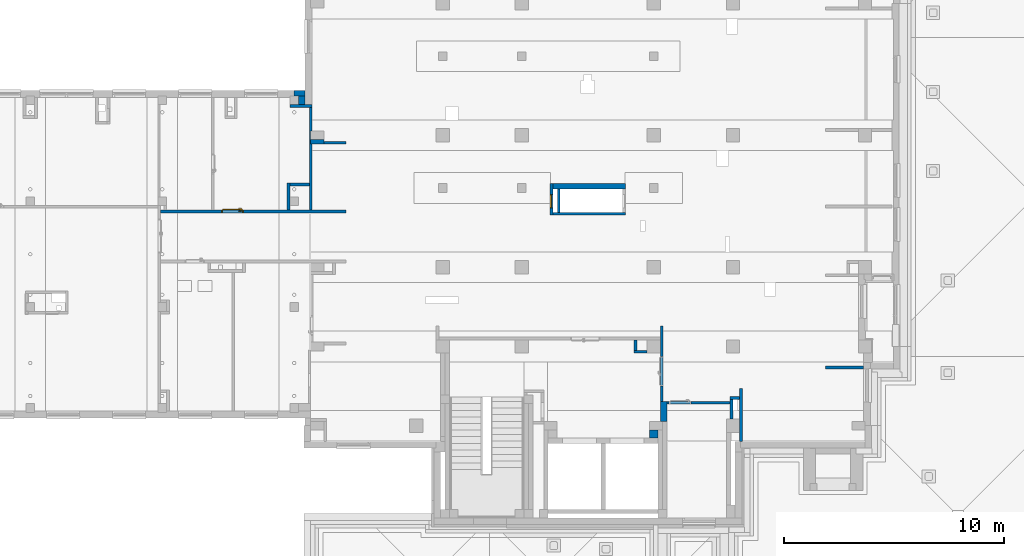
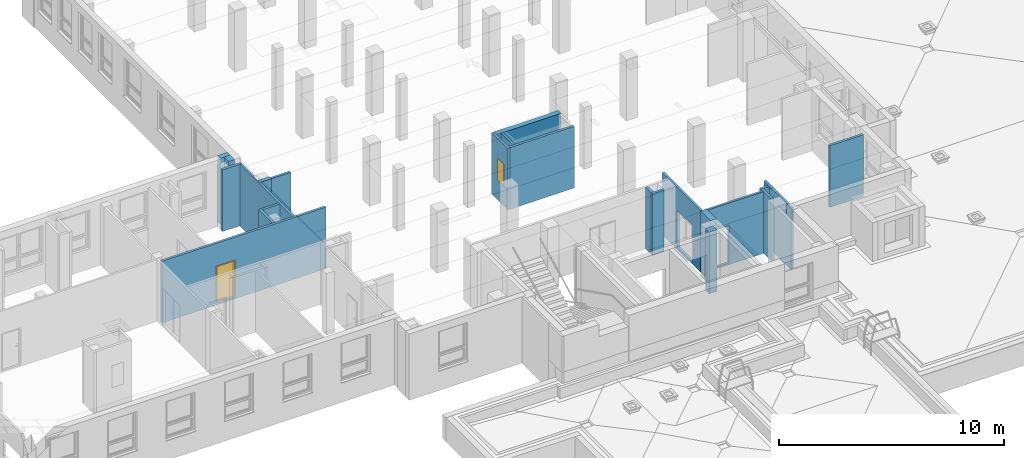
# One storey, part 23 of 50: 23 walls, 1 door, 1 window, 4 openings.
"""IFC4 building model written with IfcOpenShell, lengths in metres."""

from ifc_helpers import new_model, entity, si_unit, converted_unit, derived_unit, frame, frame_2d, origin, origin_with_axes, place, context, subcontext, project, spatial, polyline, rectangle, outline, extrude, closed_shell, open_shell, faceted_brep, surface_model, source, transform, mapped, material, layer, layer_set, layer_usage, type_object, element, fill, save


model = new_model("IFC4")

# Units and contexts
model_context = context("Model", 3, precision=1e-05, world=origin())
body_context = subcontext(model_context, "Body", "Model", "MODEL_VIEW")
ifc_project = project(units=[si_unit("LENGTHUNIT", "METRE"), si_unit("AREAUNIT", "SQUARE_METRE"), si_unit("VOLUMEUNIT", "CUBIC_METRE"), si_unit("MASSUNIT", "GRAM", prefix="KILO"), converted_unit("PLANEANGLEUNIT", "DEGREE", entity("IfcPlaneAngleMeasure", 0.0174532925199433), si_unit("PLANEANGLEUNIT", "RADIAN"), dimensions=[0, 0, 0, 0, 0, 0, 0]), derived_unit("THERMALTRANSMITTANCEUNIT", [(si_unit("POWERUNIT", "WATT"), 1), (si_unit("THERMODYNAMICTEMPERATUREUNIT", "KELVIN"), -1), (si_unit("LENGTHUNIT", "METRE"), -2)]), derived_unit("VOLUMETRICFLOWRATEUNIT", [(si_unit("LENGTHUNIT", "METRE"), 3), (converted_unit("TIMEUNIT", "hour", entity("IfcTimeMeasure", 3600.0), si_unit("TIMEUNIT", "SECOND"), dimensions=[0, 0, 1, 0, 0, 0, 0]), -1), (si_unit("LENGTHUNIT", "METRE"), -1)])], contexts=[model_context])

# Site, building, storey
site_placement = place(None, origin())
site = spatial("IfcSite", under=ifc_project, at=site_placement, Name="3. ASŘ", CompositionType="ELEMENT")
building_placement = place(site_placement, origin())
building = spatial("IfcBuilding", under=site, at=building_placement, Name="Pavilon C", CompositionType="ELEMENT")
storey_placement = place(building_placement, frame((0.0, 0.0, 3.6)))
storey = spatial("IfcBuildingStorey", under=building, at=storey_placement, Name="Půdorys 2.NP", CompositionType="ELEMENT", Elevation=3.6)

# Walls
ifc_material_1 = material(Name="ZDIVO Z CDm")
ifc_layer_1 = layer(ifc_material_1, 0.35)
ifc_layer_set_1 = layer_set([ifc_layer_1])
ifc_layer_usage_1 = layer_usage(ifc_layer_set_1, "AXIS2", "POSITIVE", 0.0)
wall_1_placement = place(storey_placement, frame((40.55, -0.200000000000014, -0.1), z_axis=(0.0, 0.0, 1.0), x_axis=(-1.0, 0.0, 0.0)))
element("IfcWall", 1, at=wall_1_placement, inside=storey, material=ifc_layer_usage_1, Name="ZDIVO Z CDm", context=body_context, shape_type="SweptSolid", body=[
    extrude(rectangle(XDim=0.4, YDim=0.35, at=frame_2d((0.2, 0.175), x_axis=(1.0, 0.0))), origin_with_axes(), (0.0, 0.0, 1.0), 3.35),
])
ifc_material_2 = material(Name="ZDIVO Z CDm")
ifc_layer_2 = layer(ifc_material_2, 0.125)
ifc_layer_set_2 = layer_set([ifc_layer_2])
ifc_layer_usage_2 = layer_usage(ifc_layer_set_2, "AXIS2", "POSITIVE", 0.0)
wall_2_placement = place(storey_placement, frame((39.45, 3.29999999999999, -0.1)))
element("IfcWall", 2, at=wall_2_placement, inside=storey, material=ifc_layer_usage_2, Name="ZDIVO Z CDm", context=body_context, shape_type="SweptSolid", body=[
    extrude(rectangle(XDim=0.6, YDim=0.125, at=frame_2d((0.3, 0.0625000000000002), x_axis=(1.0, 0.0))), origin_with_axes(), (0.0, 0.0, 1.0), 3.35),
])
ifc_material_3 = material(Name="ZDIVO Z CDm")
ifc_layer_3 = layer(ifc_material_3, 0.125)
ifc_layer_set_3 = layer_set([ifc_layer_3])
ifc_layer_usage_3 = layer_usage(ifc_layer_set_3, "AXIS2", "POSITIVE", 0.0)
wall_3_placement = place(storey_placement, frame((39.45, 3.89999999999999, -0.1), z_axis=(0.0, 0.0, 1.0), x_axis=(0.0, -1.0, 0.0)))
element("IfcWall", 3, at=wall_3_placement, inside=storey, material=ifc_layer_usage_3, Name="ZDIVO Z CDm", context=body_context, shape_type="SweptSolid", body=[
    extrude(rectangle(XDim=0.475, YDim=0.125, at=frame_2d((0.2375, 0.0625), x_axis=(1.0, 0.0))), origin_with_axes(), (0.0, 0.0, 1.0), 3.35),
])

# Wall, opening
ifc_material_4 = material(Name="ZDIVO Z CDm")
ifc_layer_4 = layer(ifc_material_4, 0.125)
ifc_layer_set_4 = layer_set([ifc_layer_4])
ifc_layer_usage_4 = layer_usage(ifc_layer_set_4, "AXIS2", "POSITIVE", 0.0)
wall_4_placement = place(storey_placement, frame((40.65, 4.525, -0.1), z_axis=(0.0, 0.0, 1.0), x_axis=(0.0, -1.0, 0.0)))
wall_4 = element("IfcWall", 4, at=wall_4_placement, inside=storey, material=ifc_layer_usage_4, Name="ZDIVO Z CDm", context=body_context, shape_type="SweptSolid", body=[
    extrude(rectangle(XDim=3.42500000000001, YDim=0.125, at=frame_2d((1.7125, 0.0625), x_axis=(1.0, 0.0))), origin_with_axes(), (0.0, 0.0, 1.0), 3.35),
])
opening_1_placement = place(wall_4_placement, frame((1.37500000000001, 0.0, 0.1), z_axis=(0.0, 1.0, 0.0), x_axis=(0.0, 0.0, 1.0)))
element("IfcOpeningElement", 5, at=opening_1_placement, cuts=wall_4, Name="Dveřní otvor", ObjectType="Opening", context=body_context, shape_type="SweptSolid", body=[
    extrude(outline(polyline([(0.0, 1.35), (2.02, 1.35), (2.02, 0.0), (0.0, 0.0), (0.0, 1.35)])), origin_with_axes(), (0.0, 0.0, 1.0), 0.125),
])

# Walls
ifc_material_5 = material(Name="ZDIVO Z CDm")
ifc_layer_5 = layer(ifc_material_5, 0.125)
ifc_layer_set_5 = layer_set([ifc_layer_5])
ifc_layer_usage_5 = layer_usage(ifc_layer_set_5, "AXIS2", "POSITIVE", 0.0)
wall_5_placement = place(storey_placement, frame((43.825, 1.19999999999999, -0.1)))
element("IfcWall", 6, at=wall_5_placement, inside=storey, material=ifc_layer_usage_5, Name="ZDIVO Z CDm", context=body_context, shape_type="SweptSolid", body=[
    extrude(rectangle(XDim=0.425, YDim=0.125, at=frame_2d((0.2125, 0.0625), x_axis=(1.0, 0.0))), origin_with_axes(), (0.0, 0.0, 1.0), 3.35),
])
ifc_material_6 = material(Name="ZDIVO Z CDm")
ifc_layer_6 = layer(ifc_material_6, 0.125)
ifc_layer_set_6 = layer_set([ifc_layer_6])
ifc_layer_usage_6 = layer_usage(ifc_layer_set_6, "AXIS2", "POSITIVE", 0.0)
wall_6_placement = place(storey_placement, frame((43.95, 0.29999999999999, -0.1), z_axis=(0.0, 0.0, 1.0), x_axis=(0.0, 1.0, 0.0)))
element("IfcWall", 7, at=wall_6_placement, inside=storey, material=ifc_layer_usage_6, Name="ZDIVO Z CDm", context=body_context, shape_type="SweptSolid", body=[
    extrude(rectangle(XDim=0.900000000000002, YDim=0.125, at=frame_2d((0.450000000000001, 0.0625), x_axis=(1.0, 0.0))), origin_with_axes(), (0.0, 0.0, 1.0), 3.35),
])

# Wall, opening
ifc_material_7 = material(Name="ZDIVO Z CDm")
ifc_layer_7 = layer(ifc_material_7, 0.125)
ifc_layer_set_7 = layer_set([ifc_layer_7])
ifc_layer_usage_7 = layer_usage(ifc_layer_set_7, "AXIS2", "POSITIVE", 0.0)
wall_7_placement = place(storey_placement, frame((40.95, 0.97499999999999, -0.1), z_axis=(0.0, 0.0, 1.0), x_axis=(1.0, -1.18629743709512e-16, 0.0)))
wall_7 = element("IfcWall", 8, at=wall_7_placement, inside=storey, material=ifc_layer_usage_7, Name="ZDIVO Z CDm", context=body_context, shape_type="SweptSolid", body=[
    extrude(rectangle(XDim=2.875, YDim=0.125, at=frame_2d((1.4375, 0.0625), x_axis=(1.0, 0.0))), origin_with_axes(), (0.0, 0.0, 1.0), 3.35),
])
opening_2_placement = place(wall_7_placement, frame((1.1, 0.125, 0.1), z_axis=(0.0, -1.0, 0.0), x_axis=(0.0, 0.0, 1.0)))
element("IfcOpeningElement", 9, at=opening_2_placement, cuts=wall_7, Name="Dveřní otvor", ObjectType="Opening", context=body_context, shape_type="SweptSolid", body=[
    extrude(outline(polyline([(0.0, 1.0), (2.02, 1.0), (2.02, 0.0), (0.0, 0.0), (0.0, 1.0)])), origin_with_axes(), (0.0, 0.0, 1.0), 0.125),
])

# Walls
ifc_material_8 = material(Name="ZDIVO Z CDm")
ifc_layer_8 = layer(ifc_material_8, 0.3)
ifc_layer_set_8 = layer_set([ifc_layer_8])
ifc_layer_usage_8 = layer_usage(ifc_layer_set_8, "AXIS2", "POSITIVE", 0.0)
wall_8_placement = place(storey_placement, frame((40.95, 0.199999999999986, -0.1), z_axis=(0.0, 0.0, 1.0), x_axis=(0.0, 1.0, 0.0)))
element("IfcWall", 10, at=wall_8_placement, inside=storey, material=ifc_layer_usage_8, Name="ZDIVO Z CDm", context=body_context, shape_type="SweptSolid", body=[
    extrude(rectangle(XDim=0.900000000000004, YDim=0.3, at=frame_2d((0.450000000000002, 0.15), x_axis=(1.0, 0.0))), origin_with_axes(), (0.0, 0.0, 1.0), 3.35),
])
ifc_material_9 = material(Name="ZDIVO Z CDm")
ifc_layer_9 = layer(ifc_material_9, 0.125)
ifc_layer_set_9 = layer_set([ifc_layer_9])
ifc_layer_usage_9 = layer_usage(ifc_layer_set_9, "AXIS2", "POSITIVE", 0.0)
wall_9_placement = place(storey_placement, frame((44.25, 1.7, -0.1), z_axis=(0.0, 0.0, 1.0), x_axis=(0.0, -1.0, 0.0)))
element("IfcWall", 11, at=wall_9_placement, inside=storey, material=ifc_layer_usage_9, Name="ZDIVO Z CDm", context=body_context, shape_type="SweptSolid", body=[
    extrude(rectangle(XDim=2.42, YDim=0.125, at=frame_2d((1.21, 0.0625), x_axis=(1.0, 0.0))), origin_with_axes(), (0.0, 0.0, 1.0), 3.35),
])
ifc_material_10 = material(Name="PÓROBETONOVÉ ZDIVO")
ifc_layer_10 = layer(ifc_material_10, 0.3)
ifc_layer_set_10 = layer_set([ifc_layer_10])
ifc_layer_usage_10 = layer_usage(ifc_layer_set_10, "AXIS2", "POSITIVE", 0.0)
wall_10_placement = place(storey_placement, frame((24.2, 15.0, -0.1), z_axis=(0.0, 0.0, 1.0), x_axis=(0.0, -1.0, 0.0)))
element("IfcWall", 12, at=wall_10_placement, inside=storey, material=ifc_layer_usage_10, Name="PÓROBETONOVÉ ZDIVO", context=body_context, shape_type="SweptSolid", body=[
    extrude(rectangle(XDim=0.4, YDim=0.3, at=frame_2d((0.2, 0.15), x_axis=(1.0, 0.0))), origin_with_axes(), (0.0, 0.0, 1.0), 3.6),
])
ifc_material_11 = material(Name="PÓROBETONOVÉ ZDIVO")
ifc_layer_11 = layer(ifc_material_11, 0.25)
ifc_layer_set_11 = layer_set([ifc_layer_11])
ifc_layer_usage_11 = layer_usage(ifc_layer_set_11, "AXIS2", "POSITIVE", 0.0)
wall_11_placement = place(storey_placement, frame((24.0, 15.0, -0.1)))
element("IfcWall", 13, at=wall_11_placement, inside=storey, material=ifc_layer_usage_11, Name="PÓROBETONOVÉ ZDIVO", context=body_context, shape_type="SweptSolid", body=[
    extrude(rectangle(XDim=0.500000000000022, YDim=0.25, at=frame_2d((0.250000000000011, 0.125), x_axis=(1.0, 0.0))), origin_with_axes(), (0.0, 0.0, 1.0), 3.6),
])
ifc_material_12 = material(Name="ZDIVO Z CDm")
ifc_layer_12 = layer(ifc_material_12, 0.125)
ifc_layer_set_12 = layer_set([ifc_layer_12])
ifc_layer_usage_12 = layer_usage(ifc_layer_set_12, "AXIS2", "POSITIVE", 0.0)
wall_12_placement = place(storey_placement, frame((24.82, 14.6, -0.1), z_axis=(0.0, 0.0, 1.0), x_axis=(-1.0, 0.0, 0.0)))
element("IfcWall", 14, at=wall_12_placement, inside=storey, material=ifc_layer_usage_12, Name="ZDIVO Z CDm", context=body_context, shape_type="SweptSolid", body=[
    extrude(rectangle(XDim=1.01999999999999, YDim=0.125, at=frame_2d((0.509999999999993, 0.0625), x_axis=(1.0, 0.0))), origin_with_axes(), (0.0, 0.0, 1.0), 3.35),
])
ifc_material_13 = material(Name="ZDIVO Z CDm")
ifc_layer_13 = layer(ifc_material_13, 0.125)
ifc_layer_set_13 = layer_set([ifc_layer_13])
ifc_layer_usage_13 = layer_usage(ifc_layer_set_13, "AXIS2", "POSITIVE", 0.0)
wall_13_placement = place(storey_placement, frame((24.82, 9.80000000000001, -0.1), z_axis=(0.0, 0.0, 1.0), x_axis=(0.0, 1.0, 0.0)))
element("IfcWall", 15, at=wall_13_placement, inside=storey, material=ifc_layer_usage_13, Name="ZDIVO Z CDm", context=body_context, shape_type="SweptSolid", body=[
    extrude(outline(polyline([(0.0, -0.125), (2.99999999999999, -0.125), (2.99999999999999, -0.0549999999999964), (3.59999999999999, -0.0549999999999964), (3.59999999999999, -0.125), (4.67499999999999, -0.125), (4.67499999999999, 0.0), (0.0, 0.0), (0.0, -0.125)])), frame((0.0, 0.125, 0.0), z_axis=(0.0, 0.0, 1.0), x_axis=(1.0, 0.0, 0.0)), (0.0, 0.0, 1.0), 3.35),
])

# Wall, opening, door
ifc_material_14 = material(Name="ZDIVO Z CDm")
ifc_layer_14 = layer(ifc_material_14, 0.125)
ifc_layer_set_14 = layer_set([ifc_layer_14])
ifc_layer_usage_14 = layer_usage(ifc_layer_set_14, "AXIS2", "POSITIVE", 0.0)
wall_14_placement = place(storey_placement, frame((17.925, 9.67500000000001, -0.1)))
wall_14 = element("IfcWall", 16, at=wall_14_placement, inside=storey, material=ifc_layer_usage_14, Name="ZDIVO Z CDm", context=body_context, shape_type="SweptSolid", body=[
    extrude(rectangle(XDim=8.42499999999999, YDim=0.125, at=frame_2d((4.2125, 0.0625), x_axis=(1.0, 0.0))), origin_with_axes(), (0.0, 0.0, 1.0), 3.35),
])
opening_3_placement = place(wall_14_placement, frame((3.77499999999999, 0.125, 0.1), z_axis=(0.0, -1.0, 0.0), x_axis=(0.0, 0.0, 1.0)))
opening_3 = element("IfcOpeningElement", 17, at=opening_3_placement, cuts=wall_14, Name="Dveřní otvor", ObjectType="Opening", context=body_context, shape_type="SweptSolid", body=[
    extrude(outline(polyline([(0.0, 1.0), (2.02, 1.0), (2.02, 0.0), (0.0, 0.0), (0.0, 1.0)])), origin_with_axes(), (0.0, 0.0, 1.0), 0.125),
])
door_type = type_object("IfcDoorType", Name="D101", OperationType="NOTDEFINED", ParameterTakesPrecedence=False, PredefinedType="DOOR")
shared_shape_1 = source(origin_with_axes(), body_context, "Body", "SurfaceModel", [
    surface_model("IfcShellBasedSurfaceModel", [(0.0, 0.125, 2.02), (0.0, 0.125, -7.65404249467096e-18), (0.05, 0.125, -7.65404249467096e-18), (0.05, 0.125, 2.02), (0.0, 0.0, 7.65404249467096e-18), (0.0, 2.41584530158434e-16, 2.02), (0.05, 2.41584530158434e-16, 2.02), (0.05, 0.0, 7.65404249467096e-18)], [closed_shell([[[0, 1, 2, 3]], [[4, 5, 6, 7]], [[1, 0, 5, 4]], [[2, 1, 4, 7]], [[3, 2, 7, 6]], [[0, 3, 6, 5]]], orient=[[False], [False], [False], [False], [False], [False]])]),
    surface_model("IfcShellBasedSurfaceModel", [(0.95, 0.125, 2.02), (0.95, 0.125, -7.65404249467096e-18), (1.0, 0.125, -7.65404249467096e-18), (1.0, 0.125, 2.02), (0.95, 0.0, 7.65404249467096e-18), (0.95, 2.41584530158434e-16, 2.02), (1.0, 2.41584530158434e-16, 2.02), (1.0, 0.0, 7.65404249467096e-18)], [closed_shell([[[0, 1, 2, 3]], [[4, 5, 6, 7]], [[1, 0, 5, 4]], [[2, 1, 4, 7]], [[3, 2, 7, 6]], [[0, 3, 6, 5]]], orient=[[False], [False], [False], [False], [False], [False]])]),
    surface_model("IfcShellBasedSurfaceModel", [(0.05, 0.125, 2.02), (0.05, 0.125, 1.97), (0.95, 0.125, 1.97), (0.95, 0.125, 2.02), (0.05, 2.41584530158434e-16, 1.97), (0.05, 2.41584530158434e-16, 2.02), (0.95, 2.41584530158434e-16, 2.02), (0.95, 2.41584530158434e-16, 1.97)], [closed_shell([[[0, 1, 2, 3]], [[4, 5, 6, 7]], [[1, 0, 5, 4]], [[2, 1, 4, 7]], [[3, 2, 7, 6]], [[0, 3, 6, 5]]], orient=[[False], [False], [False], [False], [False], [False]])]),
    surface_model("IfcShellBasedSurfaceModel", [(0.05, 0.165, 1.97), (0.05, 0.165, -1.25526296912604e-17), (0.95, 0.165, -1.25526296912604e-17), (0.95, 0.165, 1.97), (0.05, 0.125, -7.65404249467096e-18), (0.05, 0.125, 1.97), (0.95, 0.125, 1.97), (0.95, 0.125, -7.65404249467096e-18)], [closed_shell([[[0, 1, 2, 3]], [[4, 5, 6, 7]], [[1, 0, 5, 4]], [[2, 1, 4, 7]], [[3, 2, 7, 6]], [[0, 3, 6, 5]]], orient=[[False], [False], [False], [False], [False], [False]])]),
    surface_model("IfcShellBasedSurfaceModel", [(0.86, 0.125, 1.125), (0.86, 0.125, 0.91), (0.91, 0.125, 0.91), (0.91, 0.125, 1.125), (0.86, 0.115, 0.91), (0.86, 0.115, 1.125), (0.91, 0.115, 1.125), (0.91, 0.115, 0.91)], [closed_shell([[[0, 1, 2, 3]], [[4, 5, 6, 7]], [[1, 0, 5, 4]], [[2, 1, 4, 7]], [[3, 2, 7, 6]], [[0, 3, 6, 5]]], orient=[[False], [False], [False], [False], [False], [False]])]),
    surface_model("IfcShellBasedSurfaceModel", [(0.885, 0.115, 1.06), (0.88, 0.115, 1.05866025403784), (0.876339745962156, 0.115, 1.055), (0.875, 0.115, 1.05), (0.876339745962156, 0.115, 1.045), (0.88, 0.115, 1.04133974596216), (0.885, 0.115, 1.04), (0.89, 0.115, 1.04133974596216), (0.893660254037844, 0.115, 1.045), (0.895, 0.115, 1.05), (0.893660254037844, 0.115, 1.055), (0.89, 0.115, 1.05866025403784), (0.89, 0.0700000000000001, 1.05866025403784), (0.885, 0.0750000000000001, 1.06), (0.893660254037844, 0.0663397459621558, 1.055), (0.895, 0.0650000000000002, 1.05), (0.893660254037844, 0.0663397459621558, 1.045), (0.89, 0.0700000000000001, 1.04133974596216), (0.885, 0.0750000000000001, 1.04), (0.88, 0.0800000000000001, 1.04133974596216), (0.876339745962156, 0.0836602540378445, 1.045), (0.875, 0.0850000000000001, 1.05), (0.876339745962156, 0.0836602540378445, 1.055), (0.88, 0.0800000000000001, 1.05866025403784), (0.77, 0.0700000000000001, 1.05866025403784), (0.77, 0.0750000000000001, 1.06), (0.77, 0.0663397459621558, 1.055), (0.77, 0.0650000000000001, 1.05), (0.77, 0.0663397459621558, 1.045), (0.77, 0.0700000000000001, 1.04133974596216), (0.77, 0.0750000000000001, 1.04), (0.77, 0.0800000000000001, 1.04133974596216), (0.77, 0.0836602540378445, 1.045), (0.77, 0.0850000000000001, 1.05), (0.77, 0.0836602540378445, 1.055), (0.77, 0.0800000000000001, 1.05866025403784)], [open_shell([[[0, 1, 2, 3, 4, 5, 6, 7, 8, 9, 10, 11]], [[0, 11, 12, 13]], [[11, 10, 14, 12]], [[10, 9, 15, 14]], [[9, 8, 16, 15]], [[8, 7, 17, 16]], [[7, 6, 18, 17]], [[6, 5, 19, 18]], [[5, 4, 20, 19]], [[4, 3, 21, 20]], [[3, 2, 22, 21]], [[2, 1, 23, 22]], [[1, 0, 13, 23]], [[13, 12, 24, 25]], [[12, 14, 26, 24]], [[14, 15, 27, 26]], [[15, 16, 28, 27]], [[16, 17, 29, 28]], [[17, 18, 30, 29]], [[18, 19, 31, 30]], [[19, 20, 32, 31]], [[20, 21, 33, 32]], [[21, 22, 34, 33]], [[22, 23, 35, 34]], [[23, 13, 25, 35]]], orient=[[False], [False], [False], [False], [False], [False], [False], [False], [False], [False], [False], [False], [False], [False], [False], [False], [False], [False], [False], [False], [False], [False], [False], [False], [False]])]),
    surface_model("IfcShellBasedSurfaceModel", [(0.86, 0.165, 1.125), (0.91, 0.165, 1.125), (0.91, 0.165, 0.91), (0.86, 0.165, 0.91), (0.86, 0.175, 0.91), (0.91, 0.175, 0.91), (0.91, 0.175, 1.125), (0.86, 0.175, 1.125)], [closed_shell([[[0, 1, 2, 3]], [[4, 5, 6, 7]], [[3, 4, 7, 0]], [[2, 5, 4, 3]], [[1, 6, 5, 2]], [[0, 7, 6, 1]]], orient=[[False], [False], [False], [False], [False], [False]])]),
    surface_model("IfcShellBasedSurfaceModel", [(0.885, 0.175, 1.06), (0.89, 0.175, 1.05866025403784), (0.893660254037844, 0.175, 1.055), (0.895, 0.175, 1.05), (0.893660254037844, 0.175, 1.045), (0.89, 0.175, 1.04133974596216), (0.885, 0.175, 1.04), (0.88, 0.175, 1.04133974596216), (0.876339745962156, 0.175, 1.045), (0.875, 0.175, 1.05), (0.876339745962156, 0.175, 1.055), (0.88, 0.175, 1.05866025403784), (0.885, 0.215, 1.06), (0.89, 0.22, 1.05866025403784), (0.893660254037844, 0.223660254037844, 1.055), (0.895, 0.225, 1.05), (0.893660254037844, 0.223660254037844, 1.045), (0.89, 0.22, 1.04133974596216), (0.885, 0.215, 1.04), (0.88, 0.21, 1.04133974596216), (0.876339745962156, 0.206339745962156, 1.045), (0.875, 0.205, 1.05), (0.876339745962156, 0.206339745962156, 1.055), (0.88, 0.21, 1.05866025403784), (0.77, 0.215, 1.06), (0.77, 0.22, 1.05866025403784), (0.77, 0.223660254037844, 1.055), (0.77, 0.225, 1.05), (0.77, 0.223660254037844, 1.045), (0.77, 0.22, 1.04133974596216), (0.77, 0.215, 1.04), (0.77, 0.21, 1.04133974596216), (0.77, 0.206339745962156, 1.045), (0.77, 0.205, 1.05), (0.77, 0.206339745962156, 1.055), (0.77, 0.21, 1.05866025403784)], [open_shell([[[0, 1, 2, 3, 4, 5, 6, 7, 8, 9, 10, 11]], [[0, 12, 13, 1]], [[1, 13, 14, 2]], [[2, 14, 15, 3]], [[3, 15, 16, 4]], [[4, 16, 17, 5]], [[5, 17, 18, 6]], [[6, 18, 19, 7]], [[7, 19, 20, 8]], [[8, 20, 21, 9]], [[9, 21, 22, 10]], [[10, 22, 23, 11]], [[11, 23, 12, 0]], [[12, 24, 25, 13]], [[13, 25, 26, 14]], [[14, 26, 27, 15]], [[15, 27, 28, 16]], [[16, 28, 29, 17]], [[17, 29, 30, 18]], [[18, 30, 31, 19]], [[19, 31, 32, 20]], [[20, 32, 33, 21]], [[21, 33, 34, 22]], [[22, 34, 35, 23]], [[23, 35, 24, 12]]], orient=[[False], [False], [False], [False], [False], [False], [False], [False], [False], [False], [False], [False], [False], [False], [False], [False], [False], [False], [False], [False], [False], [False], [False], [False], [False]])]),
])
door_placement = place(opening_3_placement, frame((0.0, 1.0, 0.125), z_axis=(1.0, 0.0, 0.0), x_axis=(0.0, -1.0, 2.44929359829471e-16)))
door = element("IfcDoor", 18, at=door_placement, inside=storey, type_object=door_type, Name="D101", OverallHeight=2.02, OverallWidth=1.0, context=body_context, shape_type="MappedRepresentation", body=[
    mapped(shared_shape_1, transform((0.0, 0.0, 0.0), x_axis=(1.0, 0.0, 0.0), y_axis=(0.0, 1.0, 0.0), z_axis=(0.0, 0.0, 1.0), scale=1.0)),
])
fill(opening_3, door)

# Walls
ifc_material_15 = material(Name="ZDIVO Z CDm")
ifc_layer_15 = layer(ifc_material_15, 0.125)
ifc_layer_set_15 = layer_set([ifc_layer_15])
ifc_layer_usage_15 = layer_usage(ifc_layer_set_15, "AXIS2", "POSITIVE", 0.0)
wall_15_placement = place(storey_placement, frame((23.8, 9.80000000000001, -0.1), z_axis=(0.0, 0.0, 1.0), x_axis=(0.0, 1.0, 0.0)))
element("IfcWall", 19, at=wall_15_placement, inside=storey, material=ifc_layer_usage_15, Name="ZDIVO Z CDm", context=body_context, shape_type="SweptSolid", body=[
    extrude(rectangle(XDim=1.225, YDim=0.125, at=frame_2d((0.6125, 0.0625), x_axis=(1.0, 0.0))), origin_with_axes(), (0.0, 0.0, 1.0), 3.35),
])
ifc_material_16 = material(Name="ZDIVO Z CDm")
ifc_layer_16 = layer(ifc_material_16, 0.125)
ifc_layer_set_16 = layer_set([ifc_layer_16])
ifc_layer_usage_16 = layer_usage(ifc_layer_set_16, "AXIS2", "POSITIVE", 0.0)
wall_16_placement = place(storey_placement, frame((23.8, 10.9, -0.1)))
element("IfcWall", 20, at=wall_16_placement, inside=storey, material=ifc_layer_usage_16, Name="ZDIVO Z CDm", context=body_context, shape_type="SweptSolid", body=[
    extrude(rectangle(XDim=0.895, YDim=0.125, at=frame_2d((0.4475, 0.0625), x_axis=(1.0, 0.0))), origin_with_axes(), (0.0, 0.0, 1.0), 3.35),
])
ifc_material_17 = material(Name="ZDIVO Z CDm")
ifc_layer_17 = layer(ifc_material_17, 0.2)
ifc_layer_set_17 = layer_set([ifc_layer_17])
ifc_layer_usage_17 = layer_usage(ifc_layer_set_17, "AXIS2", "POSITIVE", 0.0)
wall_17_placement = place(storey_placement, frame((25.35, 13.0, -0.1), z_axis=(0.0, 0.0, 1.0), x_axis=(-1.0, 0.0, 0.0)))
element("IfcWall", 21, at=wall_17_placement, inside=storey, material=ifc_layer_usage_17, Name="ZDIVO Z CDm", context=body_context, shape_type="SweptSolid", body=[
    extrude(rectangle(XDim=0.6, YDim=0.2, at=frame_2d((0.3, 0.1), x_axis=(1.0, 0.0))), origin_with_axes(), (0.0, 0.0, 1.0), 3.35),
])
ifc_material_18 = material(Name="ZDIVO Z CDm")
ifc_layer_18 = layer(ifc_material_18, 0.125)
ifc_layer_set_18 = layer_set([ifc_layer_18])
ifc_layer_usage_18 = layer_usage(ifc_layer_set_18, "AXIS2", "POSITIVE", 0.0)
wall_18_placement = place(storey_placement, frame((26.35, 12.925, -0.1), z_axis=(0.0, 0.0, 1.0), x_axis=(-1.0, 0.0, 0.0)))
element("IfcWall", 22, at=wall_18_placement, inside=storey, material=ifc_layer_usage_18, Name="ZDIVO Z CDm", context=body_context, shape_type="SweptSolid", body=[
    extrude(rectangle(XDim=1.0, YDim=0.125, at=frame_2d((0.5, 0.0625), x_axis=(1.0, 0.0))), origin_with_axes(), (0.0, 0.0, 1.0), 3.35),
])

# Wall, opening, window
ifc_material_19 = material(Name="ZDIVO Z CDm")
ifc_layer_19 = layer(ifc_material_19, 0.125)
ifc_layer_set_19 = layer_set([ifc_layer_19])
ifc_layer_usage_19 = layer_usage(ifc_layer_set_19, "AXIS2", "POSITIVE", 0.0)
wall_19_placement = place(storey_placement, frame((35.7625, 9.57499999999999, -0.1), z_axis=(0.0, 0.0, 1.0), x_axis=(0.0, 1.0, 0.0)))
wall_19 = element("IfcWall", 23, at=wall_19_placement, inside=storey, material=ifc_layer_usage_19, Name="ZDIVO Z CDm", context=body_context, shape_type="SweptSolid", body=[
    extrude(rectangle(XDim=1.425, YDim=0.125, at=frame_2d((0.7125, 0.0625), x_axis=(1.0, 0.0))), origin_with_axes(), (0.0, 0.0, 1.0), 3.35),
])
opening_4_placement = place(wall_19_placement, frame((0.924999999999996, 0.125, 1.1), z_axis=(0.0, -1.0, 0.0), x_axis=(0.0, 0.0, 1.0)))
opening_4 = element("IfcOpeningElement", 24, at=opening_4_placement, cuts=wall_19, Name="Okenní otvor", ObjectType="Opening", context=body_context, shape_type="SweptSolid", body=[
    extrude(outline(polyline([(0.0, 0.6), (1.2, 0.6), (1.2, 0.0), (0.0, 0.0), (0.0, 0.6)])), origin_with_axes(), (0.0, 0.0, 1.0), 0.125),
])
shared_shape_2 = source(origin_with_axes(), body_context, "Body", "Brep", [
    faceted_brep([(0.0, 0.0600000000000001, 1.2), (0.0, 0.06, 4.91096680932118e-19), (0.02, 0.06, 4.91096680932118e-19), (0.02, 0.0600000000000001, 1.2), (0.0, 0.01, 6.61433067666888e-18), (0.0, 0.0100000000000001, 1.2), (0.02, 0.0100000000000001, 1.2), (0.02, 0.01, 6.61433067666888e-18)], [[[0, 1, 2, 3]], [[4, 5, 6, 7]], [[1, 0, 5, 4]], [[2, 1, 4, 7]], [[3, 2, 7, 6]], [[0, 3, 6, 5]]], orient=[[False], [False], [False], [False], [False], [False]]),
    faceted_brep([(0.58, 0.0600000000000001, 1.2), (0.58, 0.06, 4.91096680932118e-19), (0.6, 0.06, 4.91096680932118e-19), (0.6, 0.0600000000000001, 1.2), (0.58, 0.01, 6.61433067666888e-18), (0.58, 0.0100000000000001, 1.2), (0.6, 0.0100000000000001, 1.2), (0.6, 0.01, 6.61433067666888e-18)], [[[0, 1, 2, 3]], [[4, 5, 6, 7]], [[1, 0, 5, 4]], [[2, 1, 4, 7]], [[3, 2, 7, 6]], [[0, 3, 6, 5]]], orient=[[False], [False], [False], [False], [False], [False]]),
    faceted_brep([(0.02, 0.06, 0.02), (0.02, 0.06, 4.91096680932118e-19), (0.58, 0.06, 4.91096680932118e-19), (0.58, 0.06, 0.02), (0.02, 0.01, 6.61433067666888e-18), (0.02, 0.01, 0.02), (0.58, 0.01, 0.02), (0.58, 0.01, 6.61433067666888e-18)], [[[0, 1, 2, 3]], [[4, 5, 6, 7]], [[1, 0, 5, 4]], [[2, 1, 4, 7]], [[3, 2, 7, 6]], [[0, 3, 6, 5]]], orient=[[False], [False], [False], [False], [False], [False]]),
    faceted_brep([(0.02, 0.0600000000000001, 1.2), (0.02, 0.0600000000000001, 1.18), (0.58, 0.0600000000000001, 1.18), (0.58, 0.0600000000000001, 1.2), (0.02, 0.0100000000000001, 1.18), (0.02, 0.0100000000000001, 1.2), (0.58, 0.0100000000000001, 1.2), (0.58, 0.0100000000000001, 1.18)], [[[0, 1, 2, 3]], [[4, 5, 6, 7]], [[1, 0, 5, 4]], [[2, 1, 4, 7]], [[3, 2, 7, 6]], [[0, 3, 6, 5]]], orient=[[False], [False], [False], [False], [False], [False]]),
    faceted_brep([(0.02, 0.0100000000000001, 1.18), (0.02, 0.01, 0.02), (0.58, 0.01, 0.02), (0.58, 0.0100000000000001, 1.18), (0.02, 0.0, 0.02), (0.02, 1.4210854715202e-16, 1.18), (0.58, 1.4210854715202e-16, 1.18), (0.58, 0.0, 0.02)], [[[0, 1, 2, 3]], [[4, 5, 6, 7]], [[1, 0, 5, 4]], [[2, 1, 4, 7]], [[3, 2, 7, 6]], [[0, 3, 6, 5]]], orient=[[False], [False], [False], [False], [False], [False]]),
])
window_placement = place(opening_4_placement, frame((0.0, 0.600000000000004, -0.0100000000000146), z_axis=(1.0, 0.0, 0.0), x_axis=(0.0, -1.0, -1.22464679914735e-16)))
window = element("IfcWindow", 25, at=window_placement, inside=storey, Name="O01", OverallHeight=1.2, OverallWidth=0.6, PartitioningType="USERDEFINED", PredefinedType="WINDOW", context=body_context, shape_type="MappedRepresentation", body=[
    mapped(shared_shape_2, transform((0.0, 0.0, 0.0), x_axis=(1.0, 0.0, 0.0), y_axis=(0.0, -1.0, 0.0), z_axis=(0.0, 0.0, 1.0), scale=1.0)),
])
fill(opening_4, window)

# Walls
ifc_material_20 = material(Name="ZDIVO Z CDm")
ifc_layer_20 = layer(ifc_material_20, 0.125)
ifc_layer_set_20 = layer_set([ifc_layer_20])
ifc_layer_usage_20 = layer_usage(ifc_layer_set_20, "AXIS2", "POSITIVE", 0.0)
wall_20_placement = place(storey_placement, frame((39.0625, 9.69999999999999, -0.1), z_axis=(0.0, 0.0, 1.0), x_axis=(-1.0, 0.0, 0.0)))
element("IfcWall", 26, at=wall_20_placement, inside=storey, material=ifc_layer_usage_20, Name="ZDIVO Z CDm", context=body_context, shape_type="SweptSolid", body=[
    extrude(rectangle(XDim=3.3, YDim=0.125, at=frame_2d((1.65, 0.0625), x_axis=(1.0, 0.0))), origin_with_axes(), (0.0, 0.0, 1.0), 3.35),
])
ifc_material_21 = material(Name="ZDIVO Z CDm")
ifc_layer_21 = layer(ifc_material_21, 0.125)
ifc_layer_set_21 = layer_set([ifc_layer_21])
ifc_layer_usage_21 = layer_usage(ifc_layer_set_21, "AXIS2", "POSITIVE", 0.0)
wall_21_placement = place(storey_placement, frame((35.9625, 10.75, -0.1), z_axis=(0.0, 0.0, 1.0), x_axis=(0.0, -1.0, 0.0)))
element("IfcWall", 27, at=wall_21_placement, inside=storey, material=ifc_layer_usage_21, Name="ZDIVO Z CDm", context=body_context, shape_type="SweptSolid", body=[
    extrude(rectangle(XDim=1.05, YDim=0.125, at=frame_2d((0.525, 0.0625), x_axis=(1.0, 0.0))), origin_with_axes(), (0.0, 0.0, 1.0), 3.35),
])
ifc_material_22 = material(Name="ZDIVO Z CDm")
ifc_layer_22 = layer(ifc_material_22, 0.25)
ifc_layer_set_22 = layer_set([ifc_layer_22])
ifc_layer_usage_22 = layer_usage(ifc_layer_set_22, "AXIS2", "POSITIVE", 0.0)
wall_22_placement = place(storey_placement, frame((35.7625, 10.75, -0.1)))
element("IfcWall", 28, at=wall_22_placement, inside=storey, material=ifc_layer_usage_22, Name="ZDIVO Z CDm", context=body_context, shape_type="SweptSolid", body=[
    extrude(rectangle(XDim=3.3, YDim=0.25, at=frame_2d((1.65, 0.125), x_axis=(1.0, 0.0))), origin_with_axes(), (0.0, 0.0, 1.0), 3.35),
])
ifc_material_23 = material(Name="ZDIVO Z CDm")
ifc_layer_23 = layer(ifc_material_23, 0.125)
ifc_layer_set_23 = layer_set([ifc_layer_23])
ifc_layer_usage_23 = layer_usage(ifc_layer_set_23, "AXIS2", "POSITIVE", 0.0)
wall_23_placement = place(storey_placement, frame((48.15, 2.57999999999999, -0.1)))
element("IfcWall", 29, at=wall_23_placement, inside=storey, material=ifc_layer_usage_23, Name="ZDIVO Z CDm", context=body_context, shape_type="SweptSolid", body=[
    extrude(rectangle(XDim=1.73, YDim=0.125, at=frame_2d((0.865, 0.0625), x_axis=(1.0, 0.0))), origin_with_axes(), (0.0, 0.0, 1.0), 3.35),
])

save(model, "model.ifc")
